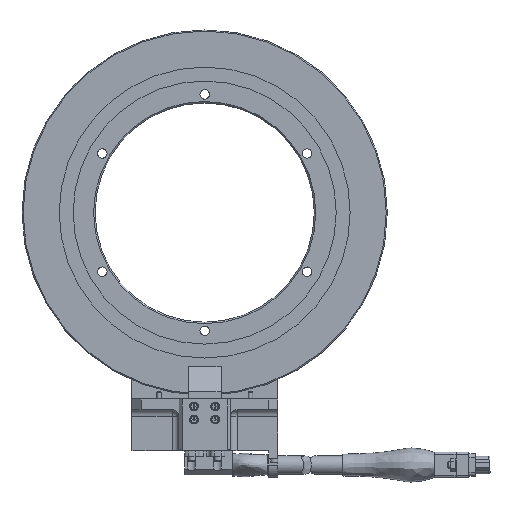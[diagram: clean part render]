
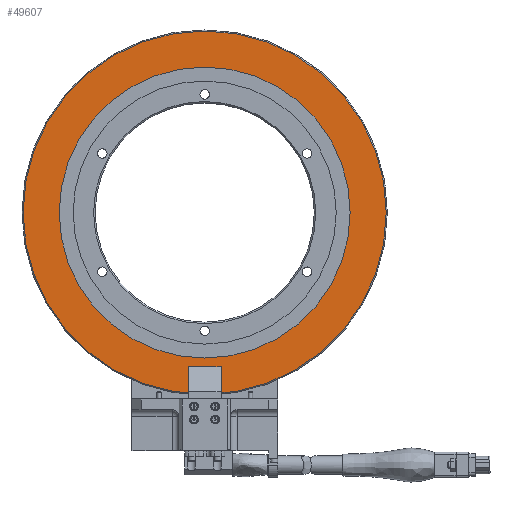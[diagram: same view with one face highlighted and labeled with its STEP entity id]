
A CAD part, front view. The second image highlights one B-rep face of the part: STEP entity #49607.
In plain terms, the highlighted planar face has unit normal (0, -1, 0).
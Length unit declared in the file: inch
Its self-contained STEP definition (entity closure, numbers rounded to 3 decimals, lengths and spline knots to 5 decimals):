
#2495 = CARTESIAN_POINT ( 'NONE',  ( 0., 0.088, 0. ) ) ;
#5550 = AXIS2_PLACEMENT_3D ( 'NONE', #2495, #32326, #25969 ) ;
#5611 = EDGE_CURVE ( 'NONE', #42893, #42893, #41490, .T. ) ;
#7280 = EDGE_LOOP ( 'NONE', ( #70896 ) ) ;
#8411 = VERTEX_POINT ( 'NONE', #39147 ) ;
#13581 = CARTESIAN_POINT ( 'NONE',  ( 2.485, 0.088, 0. ) ) ;
#15500 = DIRECTION ( 'NONE',  ( 0., 0., 1. ) ) ;
#25242 = CARTESIAN_POINT ( 'NONE',  ( 0., 0.088, 0. ) ) ;
#25969 = DIRECTION ( 'NONE',  ( 1., 0., 0. ) ) ;
#29712 = DIRECTION ( 'NONE',  ( 1., 0., 0. ) ) ;
#32326 = DIRECTION ( 'NONE',  ( 0., -1., 0. ) ) ;
#37507 = FACE_BOUND ( 'NONE', #7280, .T. ) ;
#39147 = CARTESIAN_POINT ( 'NONE',  ( 0., 0.088, 1.991 ) ) ;
#39364 = DIRECTION ( 'NONE',  ( 0., 1., 0. ) ) ;
#41490 = CIRCLE ( 'NONE', #5550, 2.485 ) ;
#42893 = VERTEX_POINT ( 'NONE', #13581 ) ;
#43875 = FACE_OUTER_BOUND ( 'NONE', #72570, .T. ) ;
#48621 = AXIS2_PLACEMENT_3D ( 'NONE', #25242, #39364, #15500 ) ;
#49607 = ADVANCED_FACE ( 'NONE', ( #43875, #37507 ), #51140, .F. ) ;
#50135 = EDGE_CURVE ( 'NONE', #8411, #8411, #59533, .T. ) ;
#51140 = PLANE ( 'NONE',  #57849 ) ;
#57849 = AXIS2_PLACEMENT_3D ( 'NONE', #80928, #74066, #29712 ) ;
#59533 = CIRCLE ( 'NONE', #48621, 1.991 ) ;
#70896 = ORIENTED_EDGE ( 'NONE', *, *, #50135, .T. ) ;
#72570 = EDGE_LOOP ( 'NONE', ( #74695 ) ) ;
#74066 = DIRECTION ( 'NONE',  ( 0., 1., 0. ) ) ;
#74695 = ORIENTED_EDGE ( 'NONE', *, *, #5611, .T. ) ;
#80928 = CARTESIAN_POINT ( 'NONE',  ( 0., 0.088, 0. ) ) ;
